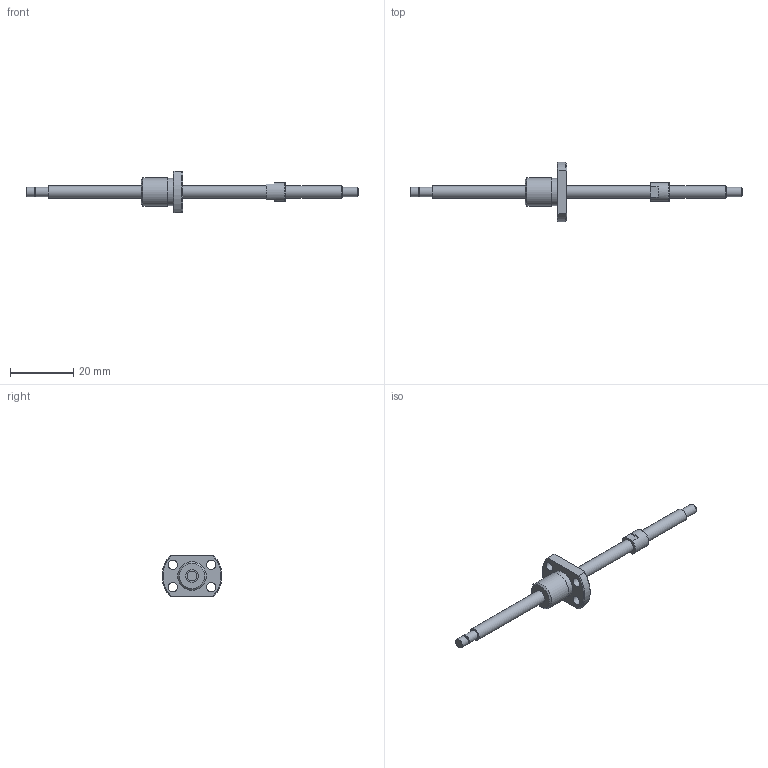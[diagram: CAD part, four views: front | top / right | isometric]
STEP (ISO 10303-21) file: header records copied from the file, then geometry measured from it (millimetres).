
FILE_DESCRIPTION(/* description */ ('STEP AP214'),/* implementation_level */ '2;1');
FILE_NAME(/* name */ 'PSRT0401K-65R105C5B0X(B29.5)',/* time_stamp */ '2026-08-06T16:11:18+02:00',/* author */ ('License CC BY-ND 4.0'),/* organization */ ('CADENAS'),/* preprocessor_version */ 'ST-DEVELOPER v20',/* originating_system */ 'PARTsolutions',/* authorisation */ ' ');
FILE_SCHEMA (('AUTOMOTIVE_DESIGN {1 0 10303 214 3 1 1}'));
Length unit declared in the file: millimetre
Products named in the file (3): PSRT0401K-65R105C5B0X(B29.5); PSRT0401KB105_shaft; PSR0401K_nut
Assembly tree (2 placements, depth 2):
  PSRT0401K-65R105C5B0X(B29.5)
    PSRT0401KB105_shaft
    PSR0401K_nut
Bounding box: 105 x 18.93 x 13 mm (x, y, z)
Volume: 2395.8 mm3; surface area: 2458.2 mm2
Topology: 2 solids, 2 shells, 43 faces, 88 edges, 57 vertices
Faces by surface type: plane 18, cylinder 16, cone 8, torus 1
Full cylindrical faces by diameter (mm): 2.7 x1, 2.9 x4, 3 x3, 4 x3, 6 x1, 8.6 x1, 9 x1
Entity records: 1145 total; most frequent: DIRECTION 196, CARTESIAN_POINT 194, ORIENTED_EDGE 136, AXIS2_PLACEMENT_3D 90, EDGE_LOOP 80, FACE_BOUND 80, EDGE_CURVE 68, VERTEX_POINT 56
